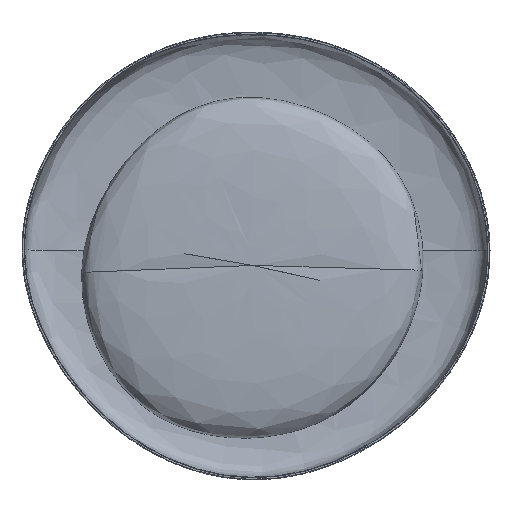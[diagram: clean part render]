
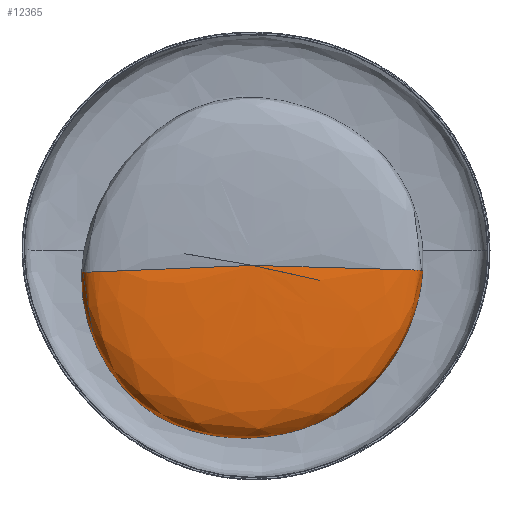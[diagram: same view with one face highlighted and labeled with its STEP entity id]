
A CAD part, top view. The second image highlights one B-rep face of the part: STEP entity #12365.
In plain terms, the highlighted free-form (B-spline) face has degree [3, 3] with [4, 7] control points.
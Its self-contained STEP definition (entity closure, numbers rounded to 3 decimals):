
#236 = CARTESIAN_POINT ( 'NONE',  ( 109.004, 9.662, 71.068 ) ) ;
#498 = CARTESIAN_POINT ( 'NONE',  ( 106.627, 9.687, 94.973 ) ) ;
#1021 = CARTESIAN_POINT ( 'NONE',  ( -91.613, 15.368, 106.1 ) ) ;
#1706 = CARTESIAN_POINT ( 'NONE',  ( -91.613, 15.368, 106.1 ) ) ;
#2251 = CARTESIAN_POINT ( 'NONE',  ( -91.613, 15.368, 106.1 ) ) ;
#2385 = CARTESIAN_POINT ( 'NONE',  ( -79.149, -204.247, 71.068 ) ) ;
#2677 = EDGE_CURVE ( 'NONE', #7168, #6432, #11238, .T. ) ;
#3086 = EDGE_CURVE ( 'NONE', #7168, #22258, #8632, .T. ) ;
#4003 = CARTESIAN_POINT ( 'NONE',  ( 100.965, 10.081, 106.1 ) ) ;
#6037 = CARTESIAN_POINT ( 'NONE',  ( -91.613, 15.368, 106.1 ) ) ;
#6175 = CARTESIAN_POINT ( 'NONE',  ( -290.741, 7.364, 94.973 ) ) ;
#6432 = VERTEX_POINT ( 'NONE', #19326 ) ;
#6551 = EDGE_LOOP ( 'NONE', ( #17875, #18811, #22899 ) ) ;
#6569 = CARTESIAN_POINT ( 'NONE',  ( 103.395, -40.117, 94.973 ) ) ;
#7008 = CARTESIAN_POINT ( 'NONE',  ( 109.004, 9.662, 71.068 ) ) ;
#7168 = VERTEX_POINT ( 'NONE', #17037 ) ;
#7928 = CARTESIAN_POINT ( 'NONE',  ( -80.177, -195.632, 106.101 ) ) ;
#8191 = CARTESIAN_POINT ( 'NONE',  ( -292.7, -48.663, 94.973 ) ) ;
#8453 = CARTESIAN_POINT ( 'NONE',  ( 105.732, -40.747, 71.068 ) ) ;
#8632 = B_SPLINE_CURVE_WITH_KNOTS ( 'NONE', 3,
 ( #1021, #8995, #498, #21619 ),
 .UNSPECIFIED., .F., .F.,
 ( 4, 4 ),
 ( 0., 1. ),
 .UNSPECIFIED. ) ;
#8995 = CARTESIAN_POINT ( 'NONE',  ( 100.965, 10.081, 106.1 ) ) ;
#9007 = CARTESIAN_POINT ( 'NONE',  ( -293.185, 7.31, 71.068 ) ) ;
#9185 = CARTESIAN_POINT ( 'NONE',  ( 105.732, -40.747, 71.068 ) ) ;
#9315 = CARTESIAN_POINT ( 'NONE',  ( -244.903, -166.205, 71.068 ) ) ;
#9964 = FACE_OUTER_BOUND ( 'NONE', #6551, .T. ) ;
#10100 = CARTESIAN_POINT ( 'NONE',  ( -91.613, 15.368, 106.1 ) ) ;
#10510 = CARTESIAN_POINT ( 'NONE',  ( 109.004, 9.662, 71.068 ) ) ;
#11225 = CARTESIAN_POINT ( 'NONE',  ( 60.113, -141.171, 71.068 ) ) ;
#11238 = B_SPLINE_CURVE_WITH_KNOTS ( 'NONE', 3,
 ( #1706, #15927, #15797, #21920 ),
 .UNSPECIFIED., .F., .F.,
 ( 4, 4 ),
 ( 0., 1. ),
 .UNSPECIFIED. ) ;
#11356 = CARTESIAN_POINT ( 'NONE',  ( -293.185, 7.31, 71.068 ) ) ;
#12284 = CARTESIAN_POINT ( 'NONE',  ( -286.108, 7.201, 106.1 ) ) ;
#12365 = ADVANCED_FACE ( 'NONE', ( #9964 ), #24140, .T. ) ;
#12405 = CARTESIAN_POINT ( 'NONE',  ( -91.613, 15.368, 106.1 ) ) ;
#15797 = CARTESIAN_POINT ( 'NONE',  ( -290.741, 7.364, 94.973 ) ) ;
#15927 = CARTESIAN_POINT ( 'NONE',  ( -286.108, 7.201, 106.1 ) ) ;
#17037 = CARTESIAN_POINT ( 'NONE',  ( -91.613, 15.368, 106.1 ) ) ;
#17875 = ORIENTED_EDGE ( 'NONE', *, *, #25716, .T. ) ;
#18512 = CARTESIAN_POINT ( 'NONE',  ( -239.877, -160.552, 106.1 ) ) ;
#18811 = ORIENTED_EDGE ( 'NONE', *, *, #3086, .F. ) ;
#19326 = CARTESIAN_POINT ( 'NONE',  ( -293.185, 7.31, 71.068 ) ) ;
#20349 = B_SPLINE_CURVE_WITH_KNOTS ( 'NONE', 3,
 ( #11356, #21551, #9315, #23687, #11225, #9185, #7008 ),
 .UNSPECIFIED., .F., .F.,
 ( 4, 1, 1, 1, 4 ),
 ( 0., 0.25, 0.5, 0.75, 1. ),
 .UNSPECIFIED. ) ;
#20428 = CARTESIAN_POINT ( 'NONE',  ( -91.613, 15.368, 106.1 ) ) ;
#20687 = CARTESIAN_POINT ( 'NONE',  ( -243.038, -164.072, 94.973 ) ) ;
#20967 = CARTESIAN_POINT ( 'NONE',  ( 106.627, 9.687, 94.973 ) ) ;
#21378 = CARTESIAN_POINT ( 'NONE',  ( 60.113, -141.171, 71.068 ) ) ;
#21551 = CARTESIAN_POINT ( 'NONE',  ( -295.167, -49.396, 71.068 ) ) ;
#21619 = CARTESIAN_POINT ( 'NONE',  ( 109.004, 9.662, 71.068 ) ) ;
#21920 = CARTESIAN_POINT ( 'NONE',  ( -293.185, 7.31, 71.068 ) ) ;
#22258 = VERTEX_POINT ( 'NONE', #10510 ) ;
#22577 = CARTESIAN_POINT ( 'NONE',  ( 98.088, -38.403, 106.101 ) ) ;
#22707 = CARTESIAN_POINT ( 'NONE',  ( -288.088, -47.592, 106.1 ) ) ;
#22899 = ORIENTED_EDGE ( 'NONE', *, *, #2677, .T. ) ;
#23118 = CARTESIAN_POINT ( 'NONE',  ( -244.903, -166.205, 71.068 ) ) ;
#23254 = CARTESIAN_POINT ( 'NONE',  ( -295.167, -49.396, 71.068 ) ) ;
#23687 = CARTESIAN_POINT ( 'NONE',  ( -79.149, -204.247, 71.068 ) ) ;
#24140 = B_SPLINE_SURFACE_WITH_KNOTS ( 'NONE', 3, 3, ( 
 ( #20428, #10100, #6037, #12405, #24831, #26455, #2251 ),
 ( #12284, #22707, #18512, #7928, #26312, #22577, #4003 ),
 ( #6175, #8191, #20687, #24312, #24958, #6569, #20967 ),
 ( #9007, #23254, #23118, #2385, #21378, #8453, #236 ) ),
 .UNSPECIFIED., .F., .F., .F.,
 ( 4, 4 ),
 ( 4, 1, 1, 1, 4 ),
 ( 0., 1. ),
 ( -6., -5., -4., -3., -2. ),
 .UNSPECIFIED. ) ;
#24312 = CARTESIAN_POINT ( 'NONE',  ( -79.271, -201.658, 94.973 ) ) ;
#24831 = CARTESIAN_POINT ( 'NONE',  ( -91.613, 15.368, 106.1 ) ) ;
#24958 = CARTESIAN_POINT ( 'NONE',  ( 58.322, -139.338, 94.973 ) ) ;
#25716 = EDGE_CURVE ( 'NONE', #6432, #22258, #20349, .T. ) ;
#26312 = CARTESIAN_POINT ( 'NONE',  ( 54.267, -134.76, 106.101 ) ) ;
#26455 = CARTESIAN_POINT ( 'NONE',  ( -91.613, 15.368, 106.1 ) ) ;
